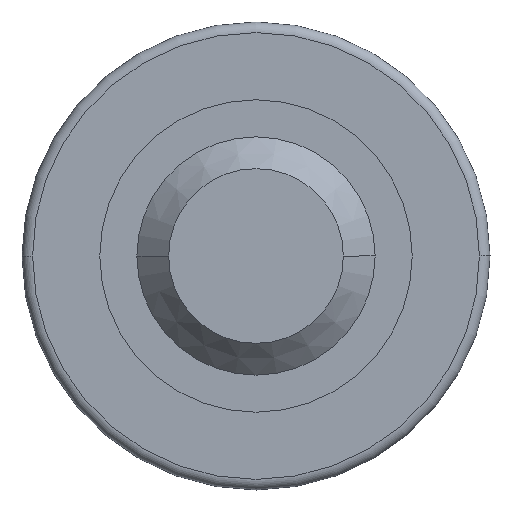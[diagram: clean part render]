
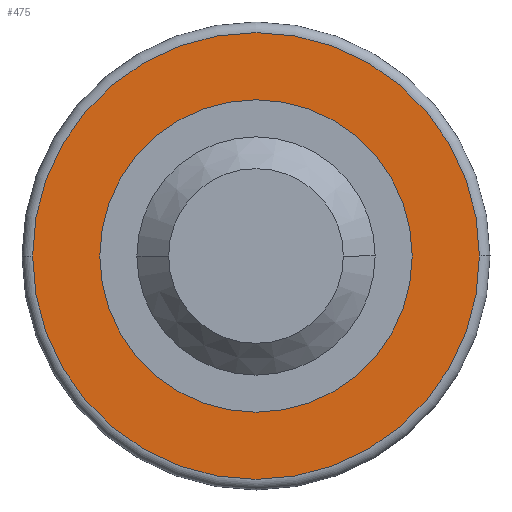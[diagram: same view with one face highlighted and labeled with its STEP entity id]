
A CAD part, left-side view. The second image highlights one B-rep face of the part: STEP entity #475.
In plain terms, the highlighted planar face has unit normal (-1, 0, 0).
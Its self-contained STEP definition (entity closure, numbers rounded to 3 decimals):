
#28 = CARTESIAN_POINT ( 'NONE',  ( 23.5, -29.5, 0. ) ) ;
#66 = CARTESIAN_POINT ( 'NONE',  ( 23.5, 42.2, 0. ) ) ;
#72 = CIRCLE ( 'NONE', #73, 29.5 ) ;
#73 = AXIS2_PLACEMENT_3D ( 'NONE', #74, #75, #76 ) ;
#74 = CARTESIAN_POINT ( 'NONE',  ( 23.5, 0., 0. ) ) ;
#75 = DIRECTION ( 'NONE',  ( 1., 0., 0. ) ) ;
#76 = DIRECTION ( 'NONE',  ( 0., 1., 0. ) ) ;
#199 = FACE_BOUND ( 'NONE', #457, .T. ) ;
#200 = FACE_OUTER_BOUND ( 'NONE', #500, .T. ) ;
#201 = PLANE ( 'NONE',  #202 ) ;
#202 = AXIS2_PLACEMENT_3D ( 'NONE', #203, #204, #208 ) ;
#203 = CARTESIAN_POINT ( 'NONE',  ( 23.5, 42.2, 0. ) ) ;
#204 = DIRECTION ( 'NONE',  ( -1., 0., 0. ) ) ;
#208 = DIRECTION ( 'NONE',  ( 0., -1., 0. ) ) ;
#268 = CARTESIAN_POINT ( 'NONE',  ( 23.5, -42.2, 0. ) ) ;
#374 = VERTEX_POINT ( 'NONE', #268 ) ;
#382 = EDGE_CURVE ( 'NONE', #374, #402, #695, .T. ) ;
#385 = VERTEX_POINT ( 'NONE', #706 ) ;
#386 = ORIENTED_EDGE ( 'NONE', *, *, #461, .T. ) ;
#402 = VERTEX_POINT ( 'NONE', #66 ) ;
#412 = ORIENTED_EDGE ( 'NONE', *, *, #382, .F. ) ;
#426 = EDGE_CURVE ( 'NONE', #402, #374, #563, .T. ) ;
#456 = VERTEX_POINT ( 'NONE', #28 ) ;
#457 = EDGE_LOOP ( 'NONE', ( #386, #717 ) ) ;
#461 = EDGE_CURVE ( 'NONE', #385, #456, #72, .T. ) ;
#464 = ORIENTED_EDGE ( 'NONE', *, *, #426, .F. ) ;
#475 = ADVANCED_FACE ( 'NONE', ( #199, #200 ), #201, .T. ) ;
#500 = EDGE_LOOP ( 'NONE', ( #464, #412 ) ) ;
#526 = EDGE_CURVE ( 'NONE', #456, #385, #536, .T. ) ;
#536 = CIRCLE ( 'NONE', #537, 29.5 ) ;
#537 = AXIS2_PLACEMENT_3D ( 'NONE', #538, #539, #540 ) ;
#538 = CARTESIAN_POINT ( 'NONE',  ( 23.5, 0., 0. ) ) ;
#539 = DIRECTION ( 'NONE',  ( 1., 0., 0. ) ) ;
#540 = DIRECTION ( 'NONE',  ( 0., 1., 0. ) ) ;
#563 = CIRCLE ( 'NONE', #564, 42.2 ) ;
#564 = AXIS2_PLACEMENT_3D ( 'NONE', #565, #566, #567 ) ;
#565 = CARTESIAN_POINT ( 'NONE',  ( 23.5, 0., 0. ) ) ;
#566 = DIRECTION ( 'NONE',  ( 1., 0., 0. ) ) ;
#567 = DIRECTION ( 'NONE',  ( 0., 1., 0. ) ) ;
#695 = CIRCLE ( 'NONE', #696, 42.2 ) ;
#696 = AXIS2_PLACEMENT_3D ( 'NONE', #697, #698, #699 ) ;
#697 = CARTESIAN_POINT ( 'NONE',  ( 23.5, 0., 0. ) ) ;
#698 = DIRECTION ( 'NONE',  ( 1., 0., 0. ) ) ;
#699 = DIRECTION ( 'NONE',  ( 0., 1., 0. ) ) ;
#706 = CARTESIAN_POINT ( 'NONE',  ( 23.5, 29.5, 0. ) ) ;
#717 = ORIENTED_EDGE ( 'NONE', *, *, #526, .T. ) ;
